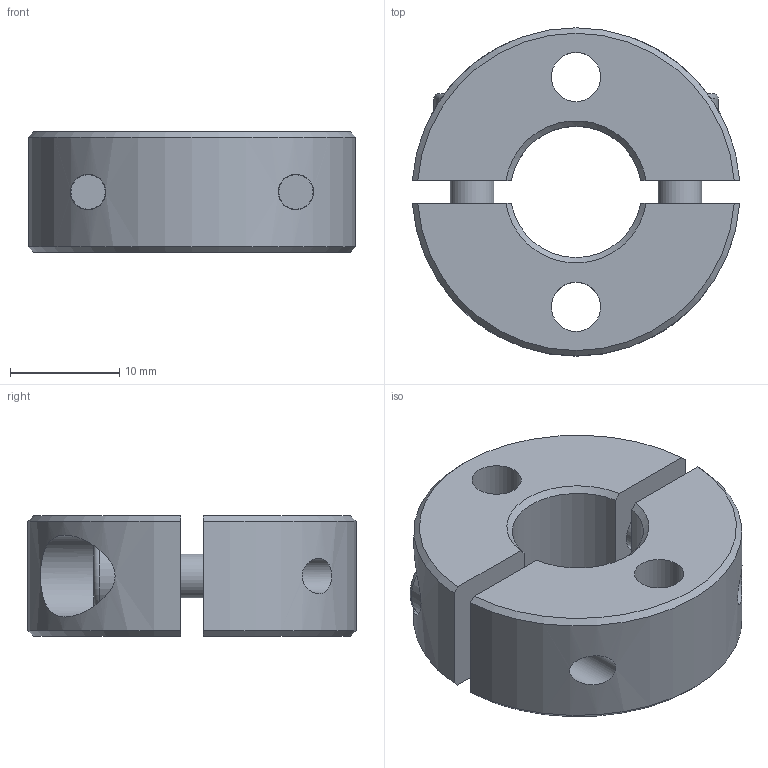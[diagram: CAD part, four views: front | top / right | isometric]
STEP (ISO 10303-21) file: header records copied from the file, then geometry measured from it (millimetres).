
FILE_DESCRIPTION( ( 'STEP AP203' ), '1' );
FILE_NAME( 'C:/Temp/Ganter_Step_05_03_2020/data/3_2/gn7072_2/Split Stainless Steel-Set collar GN 7072.2-30-B12-NI-A.stp', '2020-03-13T05:40:47', ( 'License CC BY-ND 4.0' ), ( 'CADENAS' ), ' ', 'PARTsolutions', ' ' );
FILE_SCHEMA( ( 'CONFIG_CONTROL_DESIGN' ) );
Length unit declared in the file: millimetre
Products named in the file (1): _Split Stainless Steel-Set collar GN 7072.2-30-B12-NI-A
Bounding box: 29.93 x 30 x 11 mm (x, y, z)
Volume: 5363.5 mm3; surface area: 3853.9 mm2
Topology: 1 solids, 1 shells, 58 faces, 136 edges, 92 vertices
Faces by surface type: plane 30, cylinder 16, cone 10, torus 2
Full cylindrical faces by diameter (mm): 3.242 x2, 4 x2, 4.4 x2, 4.5 x2, 7 x2, 7.5 x2
Entity records: 1808 total; most frequent: CARTESIAN_POINT 527, DIRECTION 250, ORIENTED_EDGE 224, EDGE_CURVE 112, AXIS2_PLACEMENT_3D 99, EDGE_LOOP 92, VERTEX_POINT 84, FACE_OUTER_BOUND 72
